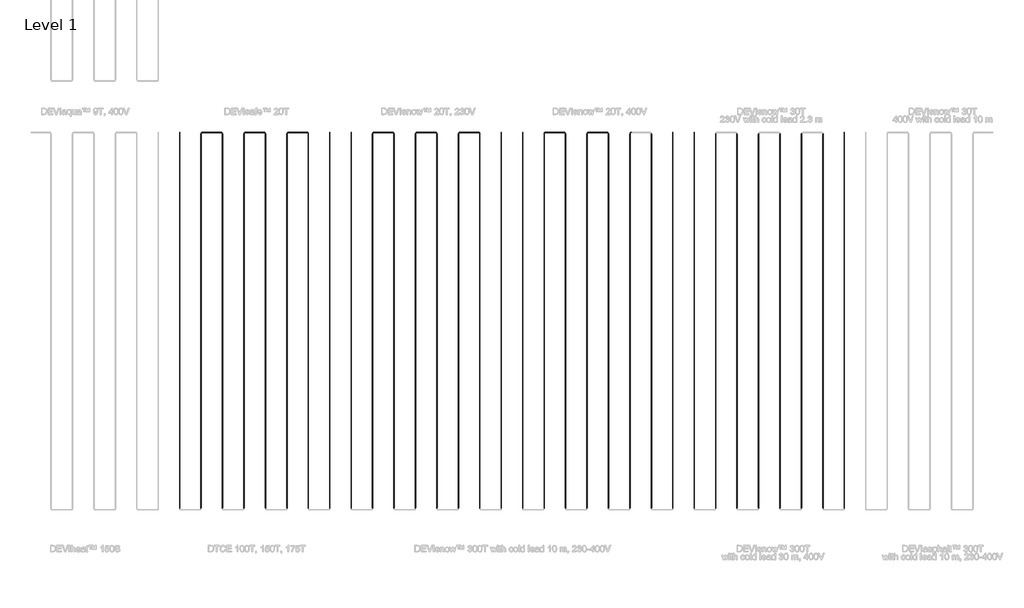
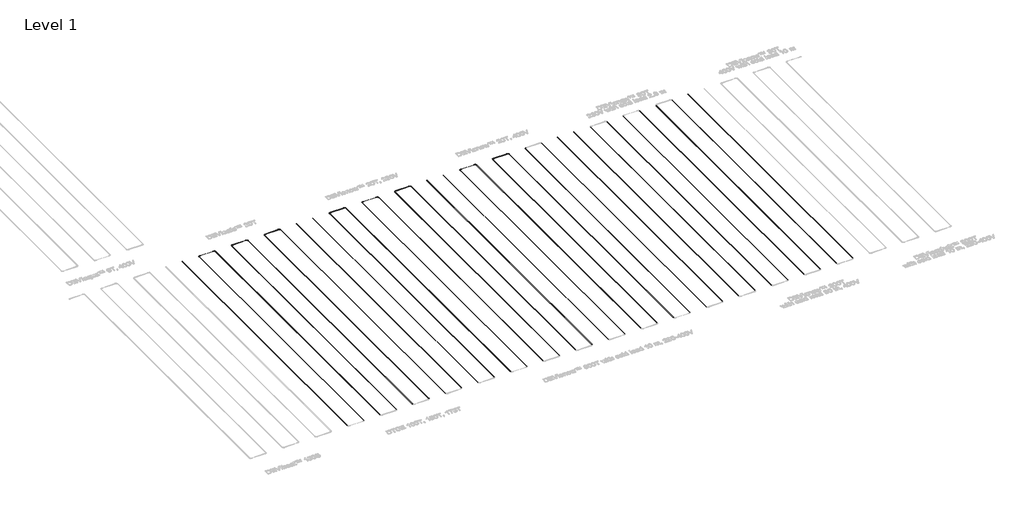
# One storey, part 5 of 26: 40 cable carrier segments, 17 cable carrier fittings.
"""IFC4 building model written with IfcOpenShell, lengths in millimetres."""

from ifc_helpers import new_model, si_unit, point, frame, frame_2d, origin, place, context, project, spatial, circle_curve, trimmed, segment, composite_curve, outline, extrude, transform, mapped, element, save
from components import cable_carrier_fitting_e4b1aeb6

model = new_model("IFC4")

# Units and contexts
model_context = context("Model", 3, world=origin())
ifc_project = project(units=[si_unit("LENGTHUNIT", "METRE", prefix="MILLI")], contexts=[model_context])

# Site, building, storey
site = spatial("IfcSite", under=ifc_project)
building = spatial("IfcBuilding", under=site)
storey = spatial("IfcBuildingStorey", under=building, Name="Level 1", Elevation=0.0)

# Cable carrier fittings
placement = place(None, origin())
cable_carrier_fitting_shape = cable_carrier_fitting_e4b1aeb6(model_context)
element("IfcCableCarrierFitting", 1, ObjectType="Danfoss Elbow : DEVIsafe™ 20T", at=placement, inside=storey, context=model_context, shape_type="MappedRepresentation", body=[
    mapped(cable_carrier_fitting_shape, transform((912.6597555, -17938.7894079, -100.0), x_axis=(-1.0, 0.0, 0.0), y_axis=(0.0, -1.0, 0.0), z_axis=(0.0, 0.0, 1.0))),
])
element("IfcCableCarrierFitting", 2, ObjectType="Danfoss Elbow : DEVIsafe™ 20T", at=placement, inside=storey, context=model_context, shape_type="MappedRepresentation", body=[
    mapped(cable_carrier_fitting_shape, transform((1412.6597555, -17938.7894079, -100.0), x_axis=(0.0, 1.0, 0.0), y_axis=(-1.0, 0.0, 0.0), z_axis=(0.0, 0.0, 1.0))),
])
element("IfcCableCarrierFitting", 3, ObjectType="Danfoss Elbow : DEVIsafe™ 20T", at=placement, inside=storey, context=model_context, shape_type="MappedRepresentation", body=[
    mapped(cable_carrier_fitting_shape, transform((1912.6597555, -17938.7894079, -100.0), x_axis=(-1.0, 0.0, 0.0), y_axis=(0.0, -1.0, 0.0), z_axis=(0.0, 0.0, 1.0))),
])
element("IfcCableCarrierFitting", 4, ObjectType="Danfoss Elbow : DEVIsafe™ 20T", at=placement, inside=storey, context=model_context, shape_type="MappedRepresentation", body=[
    mapped(cable_carrier_fitting_shape, transform((2412.6597555, -17938.7894079, -100.0), x_axis=(0.0, 1.0, 0.0), y_axis=(-1.0, 0.0, 0.0), z_axis=(0.0, 0.0, 1.0))),
])
element("IfcCableCarrierFitting", 5, ObjectType="Danfoss Elbow : DEVIsafe™ 20T", at=placement, inside=storey, context=model_context, shape_type="MappedRepresentation", body=[
    mapped(cable_carrier_fitting_shape, transform((2912.6597555, -17938.7894079, -100.0), x_axis=(-1.0, 0.0, 0.0), y_axis=(0.0, -1.0, 0.0), z_axis=(0.0, 0.0, 1.0))),
])
element("IfcCableCarrierFitting", 6, ObjectType="Danfoss Elbow : DEVIsafe™ 20T", at=placement, inside=storey, context=model_context, shape_type="MappedRepresentation", body=[
    mapped(cable_carrier_fitting_shape, transform((3412.6597555, -17938.7894079, -100.0), x_axis=(0.0, 1.0, 0.0), y_axis=(-1.0, 0.0, 0.0), z_axis=(0.0, 0.0, 1.0))),
])
element("IfcCableCarrierFitting", 7, ObjectType="Danfoss Elbow : DEVIsnow™ 20T, 230V", at=placement, inside=storey, context=model_context, shape_type="MappedRepresentation", body=[
    mapped(cable_carrier_fitting_shape, transform((4912.6597555, -17938.7894079, -100.0), x_axis=(-1.0, 0.0, 0.0), y_axis=(0.0, -1.0, 0.0), z_axis=(0.0, 0.0, 1.0))),
])
element("IfcCableCarrierFitting", 8, ObjectType="Danfoss Elbow : DEVIsnow™ 20T, 230V", at=placement, inside=storey, context=model_context, shape_type="MappedRepresentation", body=[
    mapped(cable_carrier_fitting_shape, transform((5412.6597555, -17938.7894079, -100.0), x_axis=(0.0, 1.0, 0.0), y_axis=(-1.0, 0.0, 0.0), z_axis=(0.0, 0.0, 1.0))),
])
element("IfcCableCarrierFitting", 9, ObjectType="Danfoss Elbow : DEVIsnow™ 20T, 230V", at=placement, inside=storey, context=model_context, shape_type="MappedRepresentation", body=[
    mapped(cable_carrier_fitting_shape, transform((6412.6597555, -17938.7894079, -100.0), x_axis=(0.0, 1.0, 0.0), y_axis=(-1.0, 0.0, 0.0), z_axis=(0.0, 0.0, 1.0))),
])
element("IfcCableCarrierFitting", 10, ObjectType="Danfoss Elbow : DEVIsnow™ 20T, 230V", at=placement, inside=storey, context=model_context, shape_type="MappedRepresentation", body=[
    mapped(cable_carrier_fitting_shape, transform((6912.6597555, -17938.7894079, -100.0), x_axis=(-1.0, 0.0, 0.0), y_axis=(0.0, -1.0, 0.0), z_axis=(0.0, 0.0, 1.0))),
])
element("IfcCableCarrierFitting", 11, ObjectType="Danfoss Elbow : DEVIsnow™ 20T, 230V", at=placement, inside=storey, context=model_context, shape_type="MappedRepresentation", body=[
    mapped(cable_carrier_fitting_shape, transform((7412.6597555, -17938.7894079, -100.0), x_axis=(0.0, 1.0, 0.0), y_axis=(-1.0, 0.0, 0.0), z_axis=(0.0, 0.0, 1.0))),
])
element("IfcCableCarrierFitting", 12, ObjectType="Danfoss Elbow : DEVIsnow™ 20T, 230V", at=placement, inside=storey, context=model_context, shape_type="MappedRepresentation", body=[
    mapped(cable_carrier_fitting_shape, transform((5912.6597555, -17938.7894079, -100.0), x_axis=(-1.0, 0.0, 0.0), y_axis=(0.0, -1.0, 0.0), z_axis=(0.0, 0.0, 1.0))),
])
element("IfcCableCarrierFitting", 13, ObjectType="Danfoss Elbow : DEVIsnow™ 20T, 400V", at=placement, inside=storey, context=model_context, shape_type="MappedRepresentation", body=[
    mapped(cable_carrier_fitting_shape, transform((8912.6597555, -17938.7894079, -100.0), x_axis=(-1.0, 0.0, 0.0), y_axis=(0.0, -1.0, 0.0), z_axis=(0.0, 0.0, 1.0))),
])
element("IfcCableCarrierFitting", 14, ObjectType="Danfoss Elbow : DEVIsnow™ 20T, 400V", at=placement, inside=storey, context=model_context, shape_type="MappedRepresentation", body=[
    mapped(cable_carrier_fitting_shape, transform((9412.6597555, -17938.7894079, -100.0), x_axis=(0.0, 1.0, 0.0), y_axis=(-1.0, 0.0, 0.0), z_axis=(0.0, 0.0, 1.0))),
])
element("IfcCableCarrierFitting", 15, ObjectType="Danfoss Elbow : DEVIsnow™ 20T, 400V", at=placement, inside=storey, context=model_context, shape_type="MappedRepresentation", body=[
    mapped(cable_carrier_fitting_shape, transform((9912.6597555, -17938.7894079, -100.0), x_axis=(-1.0, 0.0, 0.0), y_axis=(0.0, -1.0, 0.0), z_axis=(0.0, 0.0, 1.0))),
])
element("IfcCableCarrierFitting", 16, ObjectType="Danfoss Elbow : DEVIsnow™ 20T, 400V", at=placement, inside=storey, context=model_context, shape_type="MappedRepresentation", body=[
    mapped(cable_carrier_fitting_shape, transform((10412.6597555, -17938.7894079, -100.0), x_axis=(0.0, 1.0, 0.0), y_axis=(-1.0, 0.0, 0.0), z_axis=(0.0, 0.0, 1.0))),
])
element("IfcCableCarrierFitting", 17, ObjectType="Danfoss Elbow : DEVIsnow™ 20T, 400V", at=placement, inside=storey, context=model_context, shape_type="MappedRepresentation", body=[
    mapped(cable_carrier_fitting_shape, transform((10912.6597555, -17938.7894079, -100.0), x_axis=(-1.0, 0.0, 0.0), y_axis=(0.0, -1.0, 0.0), z_axis=(0.0, 0.0, 1.0))),
])

# Cable carrier segments
element("IfcCableCarrierSegment", 18, ObjectType="DEVIsafe™ 20T", at=placement, inside=storey, context=model_context, shape_type="SweptSolid", body=[
    extrude(outline(composite_curve([segment(trimmed(circle_curve(frame_2d((-100.0, 412.6597555)), 3.45), [point((-100.0, 409.2097555))], [point((-103.45, 412.6597555))], False, "CARTESIAN"), True, "CONTINUOUS"), segment(trimmed(circle_curve(frame_2d((-100.0, 412.6597555)), 3.45), [point((-103.45, 412.6597555))], [point((-100.0, 416.1097555))], False, "CARTESIAN"), True, "CONTINUOUS"), segment(trimmed(circle_curve(frame_2d((-100.0, 412.6597555)), 3.45), [point((-100.0, 416.1097555))], [point((-96.55, 412.6597555))], False, "CARTESIAN"), True, "CONTINUOUS"), segment(trimmed(circle_curve(frame_2d((-100.0, 412.6597555)), 3.45), [point((-96.55, 412.6597555))], [point((-100.0, 409.2097555))], False, "CARTESIAN"), True, "CONTINUOUS")], self_intersect=False)), frame((0.0, -26703.7894079, 0.0), z_axis=(0.0, 1.0, 0.0), x_axis=(0.0, 0.0, 1.0)), (0.0, 0.0, 1.0), 8765.0),
])
element("IfcCableCarrierSegment", 19, ObjectType="DEVIsafe™ 20T", at=placement, inside=storey, context=model_context, shape_type="SweptSolid", body=[
    extrude(outline(composite_curve([segment(trimmed(circle_curve(frame_2d((-100.0, 912.6597555)), 3.45), [point((-100.0, 916.1097555))], [point((-96.55, 912.6597555))], False, "CARTESIAN"), True, "CONTINUOUS"), segment(trimmed(circle_curve(frame_2d((-100.0, 912.6597555)), 3.45), [point((-96.55, 912.6597555))], [point((-100.0, 909.2097555))], False, "CARTESIAN"), True, "CONTINUOUS"), segment(trimmed(circle_curve(frame_2d((-100.0, 912.6597555)), 3.45), [point((-100.0, 909.2097555))], [point((-103.45, 912.6597555))], False, "CARTESIAN"), True, "CONTINUOUS"), segment(trimmed(circle_curve(frame_2d((-100.0, 912.6597555)), 3.45), [point((-103.45, 912.6597555))], [point((-100.0, 916.1097555))], False, "CARTESIAN"), True, "CONTINUOUS")], self_intersect=False)), frame((0.0, -26703.7894079, 0.0), z_axis=(0.0, 1.0, 0.0), x_axis=(0.0, 0.0, 1.0)), (0.0, 0.0, 1.0), 8730.0),
])
element("IfcCableCarrierSegment", 20, ObjectType="DEVIsafe™ 20T", at=placement, inside=storey, context=model_context, shape_type="SweptSolid", body=[
    extrude(outline(composite_curve([segment(trimmed(circle_curve(frame_2d((-17938.7894079, -100.0)), 3.45), [point((-17942.2394079, -100.0))], [point((-17938.7894079, -96.55))], False, "CARTESIAN"), True, "CONTINUOUS"), segment(trimmed(circle_curve(frame_2d((-17938.7894079, -100.0)), 3.45), [point((-17938.7894079, -96.55))], [point((-17935.3394079, -100.0))], False, "CARTESIAN"), True, "CONTINUOUS"), segment(trimmed(circle_curve(frame_2d((-17938.7894079, -100.0)), 3.45), [point((-17935.3394079, -100.0))], [point((-17938.7894079, -103.45))], False, "CARTESIAN"), True, "CONTINUOUS"), segment(trimmed(circle_curve(frame_2d((-17938.7894079, -100.0)), 3.45), [point((-17938.7894079, -103.45))], [point((-17942.2394079, -100.0))], False, "CARTESIAN"), True, "CONTINUOUS")], self_intersect=False)), frame((947.6597555, 0.0, 0.0), z_axis=(1.0, 0.0, 0.0), x_axis=(0.0, 1.0, 0.0)), (0.0, 0.0, 1.0), 430.0),
])
element("IfcCableCarrierSegment", 21, ObjectType="DEVIsafe™ 20T", at=placement, inside=storey, context=model_context, shape_type="SweptSolid", body=[
    extrude(outline(composite_curve([segment(trimmed(circle_curve(frame_2d((-100.0, 1412.6597555)), 3.45), [point((-100.0, 1409.2097555))], [point((-103.45, 1412.6597555))], False, "CARTESIAN"), True, "CONTINUOUS"), segment(trimmed(circle_curve(frame_2d((-100.0, 1412.6597555)), 3.45), [point((-103.45, 1412.6597555))], [point((-100.0, 1416.1097555))], False, "CARTESIAN"), True, "CONTINUOUS"), segment(trimmed(circle_curve(frame_2d((-100.0, 1412.6597555)), 3.45), [point((-100.0, 1416.1097555))], [point((-96.55, 1412.6597555))], False, "CARTESIAN"), True, "CONTINUOUS"), segment(trimmed(circle_curve(frame_2d((-100.0, 1412.6597555)), 3.45), [point((-96.55, 1412.6597555))], [point((-100.0, 1409.2097555))], False, "CARTESIAN"), True, "CONTINUOUS")], self_intersect=False)), frame((0.0, -26703.7894079, 0.0), z_axis=(0.0, 1.0, 0.0), x_axis=(0.0, 0.0, 1.0)), (0.0, 0.0, 1.0), 8730.0),
])
element("IfcCableCarrierSegment", 22, ObjectType="DEVIsafe™ 20T", at=placement, inside=storey, context=model_context, shape_type="SweptSolid", body=[
    extrude(outline(composite_curve([segment(trimmed(circle_curve(frame_2d((-100.0, 1912.6597555)), 3.45), [point((-100.0, 1916.1097555))], [point((-96.55, 1912.6597555))], False, "CARTESIAN"), True, "CONTINUOUS"), segment(trimmed(circle_curve(frame_2d((-100.0, 1912.6597555)), 3.45), [point((-96.55, 1912.6597555))], [point((-100.0, 1909.2097555))], False, "CARTESIAN"), True, "CONTINUOUS"), segment(trimmed(circle_curve(frame_2d((-100.0, 1912.6597555)), 3.45), [point((-100.0, 1909.2097555))], [point((-103.45, 1912.6597555))], False, "CARTESIAN"), True, "CONTINUOUS"), segment(trimmed(circle_curve(frame_2d((-100.0, 1912.6597555)), 3.45), [point((-103.45, 1912.6597555))], [point((-100.0, 1916.1097555))], False, "CARTESIAN"), True, "CONTINUOUS")], self_intersect=False)), frame((0.0, -26703.7894079, 0.0), z_axis=(0.0, 1.0, 0.0), x_axis=(0.0, 0.0, 1.0)), (0.0, 0.0, 1.0), 8730.0),
])
element("IfcCableCarrierSegment", 23, ObjectType="DEVIsafe™ 20T", at=placement, inside=storey, context=model_context, shape_type="SweptSolid", body=[
    extrude(outline(composite_curve([segment(trimmed(circle_curve(frame_2d((-17938.7894079, -100.0)), 3.45), [point((-17942.2394079, -100.0))], [point((-17938.7894079, -96.55))], False, "CARTESIAN"), True, "CONTINUOUS"), segment(trimmed(circle_curve(frame_2d((-17938.7894079, -100.0)), 3.45), [point((-17938.7894079, -96.55))], [point((-17935.3394079, -100.0))], False, "CARTESIAN"), True, "CONTINUOUS"), segment(trimmed(circle_curve(frame_2d((-17938.7894079, -100.0)), 3.45), [point((-17935.3394079, -100.0))], [point((-17938.7894079, -103.45))], False, "CARTESIAN"), True, "CONTINUOUS"), segment(trimmed(circle_curve(frame_2d((-17938.7894079, -100.0)), 3.45), [point((-17938.7894079, -103.45))], [point((-17942.2394079, -100.0))], False, "CARTESIAN"), True, "CONTINUOUS")], self_intersect=False)), frame((1947.6597555, 0.0, 0.0), z_axis=(1.0, 0.0, 0.0), x_axis=(0.0, 1.0, 0.0)), (0.0, 0.0, 1.0), 430.0),
])
element("IfcCableCarrierSegment", 24, ObjectType="DEVIsafe™ 20T", at=placement, inside=storey, context=model_context, shape_type="SweptSolid", body=[
    extrude(outline(composite_curve([segment(trimmed(circle_curve(frame_2d((-100.0, 2412.6597555)), 3.45), [point((-100.0, 2409.2097555))], [point((-103.45, 2412.6597555))], False, "CARTESIAN"), True, "CONTINUOUS"), segment(trimmed(circle_curve(frame_2d((-100.0, 2412.6597555)), 3.45), [point((-103.45, 2412.6597555))], [point((-100.0, 2416.1097555))], False, "CARTESIAN"), True, "CONTINUOUS"), segment(trimmed(circle_curve(frame_2d((-100.0, 2412.6597555)), 3.45), [point((-100.0, 2416.1097555))], [point((-96.55, 2412.6597555))], False, "CARTESIAN"), True, "CONTINUOUS"), segment(trimmed(circle_curve(frame_2d((-100.0, 2412.6597555)), 3.45), [point((-96.55, 2412.6597555))], [point((-100.0, 2409.2097555))], False, "CARTESIAN"), True, "CONTINUOUS")], self_intersect=False)), frame((0.0, -26703.7894079, 0.0), z_axis=(0.0, 1.0, 0.0), x_axis=(0.0, 0.0, 1.0)), (0.0, 0.0, 1.0), 8730.0),
])
element("IfcCableCarrierSegment", 25, ObjectType="DEVIsafe™ 20T", at=placement, inside=storey, context=model_context, shape_type="SweptSolid", body=[
    extrude(outline(composite_curve([segment(trimmed(circle_curve(frame_2d((-100.0, 2912.6597555)), 3.45), [point((-100.0, 2916.1097555))], [point((-96.55, 2912.6597555))], False, "CARTESIAN"), True, "CONTINUOUS"), segment(trimmed(circle_curve(frame_2d((-100.0, 2912.6597555)), 3.45), [point((-96.55, 2912.6597555))], [point((-100.0, 2909.2097555))], False, "CARTESIAN"), True, "CONTINUOUS"), segment(trimmed(circle_curve(frame_2d((-100.0, 2912.6597555)), 3.45), [point((-100.0, 2909.2097555))], [point((-103.45, 2912.6597555))], False, "CARTESIAN"), True, "CONTINUOUS"), segment(trimmed(circle_curve(frame_2d((-100.0, 2912.6597555)), 3.45), [point((-103.45, 2912.6597555))], [point((-100.0, 2916.1097555))], False, "CARTESIAN"), True, "CONTINUOUS")], self_intersect=False)), frame((0.0, -26703.7894079, 0.0), z_axis=(0.0, 1.0, 0.0), x_axis=(0.0, 0.0, 1.0)), (0.0, 0.0, 1.0), 8730.0),
])
element("IfcCableCarrierSegment", 26, ObjectType="DEVIsafe™ 20T", at=placement, inside=storey, context=model_context, shape_type="SweptSolid", body=[
    extrude(outline(composite_curve([segment(trimmed(circle_curve(frame_2d((-17938.7894079, -100.0)), 3.45), [point((-17942.2394079, -100.0))], [point((-17938.7894079, -96.55))], False, "CARTESIAN"), True, "CONTINUOUS"), segment(trimmed(circle_curve(frame_2d((-17938.7894079, -100.0)), 3.45), [point((-17938.7894079, -96.55))], [point((-17935.3394079, -100.0))], False, "CARTESIAN"), True, "CONTINUOUS"), segment(trimmed(circle_curve(frame_2d((-17938.7894079, -100.0)), 3.45), [point((-17935.3394079, -100.0))], [point((-17938.7894079, -103.45))], False, "CARTESIAN"), True, "CONTINUOUS"), segment(trimmed(circle_curve(frame_2d((-17938.7894079, -100.0)), 3.45), [point((-17938.7894079, -103.45))], [point((-17942.2394079, -100.0))], False, "CARTESIAN"), True, "CONTINUOUS")], self_intersect=False)), frame((2947.6597555, 0.0, 0.0), z_axis=(1.0, 0.0, 0.0), x_axis=(0.0, 1.0, 0.0)), (0.0, 0.0, 1.0), 430.0),
])
element("IfcCableCarrierSegment", 27, ObjectType="DEVIsafe™ 20T", at=placement, inside=storey, context=model_context, shape_type="SweptSolid", body=[
    extrude(outline(composite_curve([segment(trimmed(circle_curve(frame_2d((-100.0, 3412.6597555)), 3.45), [point((-100.0, 3409.2097555))], [point((-103.45, 3412.6597555))], False, "CARTESIAN"), True, "CONTINUOUS"), segment(trimmed(circle_curve(frame_2d((-100.0, 3412.6597555)), 3.45), [point((-103.45, 3412.6597555))], [point((-100.0, 3416.1097555))], False, "CARTESIAN"), True, "CONTINUOUS"), segment(trimmed(circle_curve(frame_2d((-100.0, 3412.6597555)), 3.45), [point((-100.0, 3416.1097555))], [point((-96.55, 3412.6597555))], False, "CARTESIAN"), True, "CONTINUOUS"), segment(trimmed(circle_curve(frame_2d((-100.0, 3412.6597555)), 3.45), [point((-96.55, 3412.6597555))], [point((-100.0, 3409.2097555))], False, "CARTESIAN"), True, "CONTINUOUS")], self_intersect=False)), frame((0.0, -26703.7894079, 0.0), z_axis=(0.0, 1.0, 0.0), x_axis=(0.0, 0.0, 1.0)), (0.0, 0.0, 1.0), 8730.0),
])
element("IfcCableCarrierSegment", 28, ObjectType="DEVIsafe™ 20T", at=placement, inside=storey, context=model_context, shape_type="SweptSolid", body=[
    extrude(outline(composite_curve([segment(trimmed(circle_curve(frame_2d((-100.0, 3912.6597555)), 3.45), [point((-100.0, 3916.1097555))], [point((-96.55, 3912.6597555))], False, "CARTESIAN"), True, "CONTINUOUS"), segment(trimmed(circle_curve(frame_2d((-100.0, 3912.6597555)), 3.45), [point((-96.55, 3912.6597555))], [point((-100.0, 3909.2097555))], False, "CARTESIAN"), True, "CONTINUOUS"), segment(trimmed(circle_curve(frame_2d((-100.0, 3912.6597555)), 3.45), [point((-100.0, 3909.2097555))], [point((-103.45, 3912.6597555))], False, "CARTESIAN"), True, "CONTINUOUS"), segment(trimmed(circle_curve(frame_2d((-100.0, 3912.6597555)), 3.45), [point((-103.45, 3912.6597555))], [point((-100.0, 3916.1097555))], False, "CARTESIAN"), True, "CONTINUOUS")], self_intersect=False)), frame((0.0, -26703.7894079, 0.0), z_axis=(0.0, 1.0, 0.0), x_axis=(0.0, 0.0, 1.0)), (0.0, 0.0, 1.0), 8765.0),
])
element("IfcCableCarrierSegment", 29, ObjectType="DEVIsnow™ 20T, 230V", at=placement, inside=storey, context=model_context, shape_type="SweptSolid", body=[
    extrude(outline(composite_curve([segment(trimmed(circle_curve(frame_2d((-100.0, 4412.6597555)), 3.45), [point((-100.0, 4409.2097555))], [point((-103.45, 4412.6597555))], False, "CARTESIAN"), True, "CONTINUOUS"), segment(trimmed(circle_curve(frame_2d((-100.0, 4412.6597555)), 3.45), [point((-103.45, 4412.6597555))], [point((-100.0, 4416.1097555))], False, "CARTESIAN"), True, "CONTINUOUS"), segment(trimmed(circle_curve(frame_2d((-100.0, 4412.6597555)), 3.45), [point((-100.0, 4416.1097555))], [point((-96.55, 4412.6597555))], False, "CARTESIAN"), True, "CONTINUOUS"), segment(trimmed(circle_curve(frame_2d((-100.0, 4412.6597555)), 3.45), [point((-96.55, 4412.6597555))], [point((-100.0, 4409.2097555))], False, "CARTESIAN"), True, "CONTINUOUS")], self_intersect=False)), frame((0.0, -26703.7894079, 0.0), z_axis=(0.0, 1.0, 0.0), x_axis=(0.0, 0.0, 1.0)), (0.0, 0.0, 1.0), 8765.0),
])
element("IfcCableCarrierSegment", 30, ObjectType="DEVIsnow™ 20T, 230V", at=placement, inside=storey, context=model_context, shape_type="SweptSolid", body=[
    extrude(outline(composite_curve([segment(trimmed(circle_curve(frame_2d((-100.0, 4912.6597555)), 3.45), [point((-100.0, 4916.1097555))], [point((-96.55, 4912.6597555))], False, "CARTESIAN"), True, "CONTINUOUS"), segment(trimmed(circle_curve(frame_2d((-100.0, 4912.6597555)), 3.45), [point((-96.55, 4912.6597555))], [point((-100.0, 4909.2097555))], False, "CARTESIAN"), True, "CONTINUOUS"), segment(trimmed(circle_curve(frame_2d((-100.0, 4912.6597555)), 3.45), [point((-100.0, 4909.2097555))], [point((-103.45, 4912.6597555))], False, "CARTESIAN"), True, "CONTINUOUS"), segment(trimmed(circle_curve(frame_2d((-100.0, 4912.6597555)), 3.45), [point((-103.45, 4912.6597555))], [point((-100.0, 4916.1097555))], False, "CARTESIAN"), True, "CONTINUOUS")], self_intersect=False)), frame((0.0, -26703.7894079, 0.0), z_axis=(0.0, 1.0, 0.0), x_axis=(0.0, 0.0, 1.0)), (0.0, 0.0, 1.0), 8730.0),
])
element("IfcCableCarrierSegment", 31, ObjectType="DEVIsnow™ 20T, 230V", at=placement, inside=storey, context=model_context, shape_type="SweptSolid", body=[
    extrude(outline(composite_curve([segment(trimmed(circle_curve(frame_2d((-17938.7894079, -100.0)), 3.45), [point((-17942.2394079, -100.0))], [point((-17938.7894079, -96.55))], False, "CARTESIAN"), True, "CONTINUOUS"), segment(trimmed(circle_curve(frame_2d((-17938.7894079, -100.0)), 3.45), [point((-17938.7894079, -96.55))], [point((-17935.3394079, -100.0))], False, "CARTESIAN"), True, "CONTINUOUS"), segment(trimmed(circle_curve(frame_2d((-17938.7894079, -100.0)), 3.45), [point((-17935.3394079, -100.0))], [point((-17938.7894079, -103.45))], False, "CARTESIAN"), True, "CONTINUOUS"), segment(trimmed(circle_curve(frame_2d((-17938.7894079, -100.0)), 3.45), [point((-17938.7894079, -103.45))], [point((-17942.2394079, -100.0))], False, "CARTESIAN"), True, "CONTINUOUS")], self_intersect=False)), frame((4947.6597555, 0.0, 0.0), z_axis=(1.0, 0.0, 0.0), x_axis=(0.0, 1.0, 0.0)), (0.0, 0.0, 1.0), 430.0),
])
element("IfcCableCarrierSegment", 32, ObjectType="DEVIsnow™ 20T, 230V", at=placement, inside=storey, context=model_context, shape_type="SweptSolid", body=[
    extrude(outline(composite_curve([segment(trimmed(circle_curve(frame_2d((-100.0, 5412.6597555)), 3.45), [point((-100.0, 5409.2097555))], [point((-103.45, 5412.6597555))], False, "CARTESIAN"), True, "CONTINUOUS"), segment(trimmed(circle_curve(frame_2d((-100.0, 5412.6597555)), 3.45), [point((-103.45, 5412.6597555))], [point((-100.0, 5416.1097555))], False, "CARTESIAN"), True, "CONTINUOUS"), segment(trimmed(circle_curve(frame_2d((-100.0, 5412.6597555)), 3.45), [point((-100.0, 5416.1097555))], [point((-96.55, 5412.6597555))], False, "CARTESIAN"), True, "CONTINUOUS"), segment(trimmed(circle_curve(frame_2d((-100.0, 5412.6597555)), 3.45), [point((-96.55, 5412.6597555))], [point((-100.0, 5409.2097555))], False, "CARTESIAN"), True, "CONTINUOUS")], self_intersect=False)), frame((0.0, -26703.7894079, 0.0), z_axis=(0.0, 1.0, 0.0), x_axis=(0.0, 0.0, 1.0)), (0.0, 0.0, 1.0), 8730.0),
])
element("IfcCableCarrierSegment", 33, ObjectType="DEVIsnow™ 20T, 230V", at=placement, inside=storey, context=model_context, shape_type="SweptSolid", body=[
    extrude(outline(composite_curve([segment(trimmed(circle_curve(frame_2d((-100.0, 5912.6597555)), 3.45), [point((-100.0, 5916.1097555))], [point((-96.55, 5912.6597555))], False, "CARTESIAN"), True, "CONTINUOUS"), segment(trimmed(circle_curve(frame_2d((-100.0, 5912.6597555)), 3.45), [point((-96.55, 5912.6597555))], [point((-100.0, 5909.2097555))], False, "CARTESIAN"), True, "CONTINUOUS"), segment(trimmed(circle_curve(frame_2d((-100.0, 5912.6597555)), 3.45), [point((-100.0, 5909.2097555))], [point((-103.45, 5912.6597555))], False, "CARTESIAN"), True, "CONTINUOUS"), segment(trimmed(circle_curve(frame_2d((-100.0, 5912.6597555)), 3.45), [point((-103.45, 5912.6597555))], [point((-100.0, 5916.1097555))], False, "CARTESIAN"), True, "CONTINUOUS")], self_intersect=False)), frame((0.0, -26703.7894079, 0.0), z_axis=(0.0, 1.0, 0.0), x_axis=(0.0, 0.0, 1.0)), (0.0, 0.0, 1.0), 8730.0),
])
element("IfcCableCarrierSegment", 34, ObjectType="DEVIsnow™ 20T, 230V", at=placement, inside=storey, context=model_context, shape_type="SweptSolid", body=[
    extrude(outline(composite_curve([segment(trimmed(circle_curve(frame_2d((-17938.7894079, -100.0)), 3.45), [point((-17942.2394079, -100.0))], [point((-17938.7894079, -96.55))], False, "CARTESIAN"), True, "CONTINUOUS"), segment(trimmed(circle_curve(frame_2d((-17938.7894079, -100.0)), 3.45), [point((-17938.7894079, -96.55))], [point((-17935.3394079, -100.0))], False, "CARTESIAN"), True, "CONTINUOUS"), segment(trimmed(circle_curve(frame_2d((-17938.7894079, -100.0)), 3.45), [point((-17935.3394079, -100.0))], [point((-17938.7894079, -103.45))], False, "CARTESIAN"), True, "CONTINUOUS"), segment(trimmed(circle_curve(frame_2d((-17938.7894079, -100.0)), 3.45), [point((-17938.7894079, -103.45))], [point((-17942.2394079, -100.0))], False, "CARTESIAN"), True, "CONTINUOUS")], self_intersect=False)), frame((5947.6597555, 0.0, 0.0), z_axis=(1.0, 0.0, 0.0), x_axis=(0.0, 1.0, 0.0)), (0.0, 0.0, 1.0), 430.0),
])
element("IfcCableCarrierSegment", 35, ObjectType="DEVIsnow™ 20T, 230V", at=placement, inside=storey, context=model_context, shape_type="SweptSolid", body=[
    extrude(outline(composite_curve([segment(trimmed(circle_curve(frame_2d((-100.0, 6412.6597555)), 3.45), [point((-100.0, 6409.2097555))], [point((-103.45, 6412.6597555))], False, "CARTESIAN"), True, "CONTINUOUS"), segment(trimmed(circle_curve(frame_2d((-100.0, 6412.6597555)), 3.45), [point((-103.45, 6412.6597555))], [point((-100.0, 6416.1097555))], False, "CARTESIAN"), True, "CONTINUOUS"), segment(trimmed(circle_curve(frame_2d((-100.0, 6412.6597555)), 3.45), [point((-100.0, 6416.1097555))], [point((-96.55, 6412.6597555))], False, "CARTESIAN"), True, "CONTINUOUS"), segment(trimmed(circle_curve(frame_2d((-100.0, 6412.6597555)), 3.45), [point((-96.55, 6412.6597555))], [point((-100.0, 6409.2097555))], False, "CARTESIAN"), True, "CONTINUOUS")], self_intersect=False)), frame((0.0, -26703.7894079, 0.0), z_axis=(0.0, 1.0, 0.0), x_axis=(0.0, 0.0, 1.0)), (0.0, 0.0, 1.0), 8730.0),
])
element("IfcCableCarrierSegment", 36, ObjectType="DEVIsnow™ 20T, 230V", at=placement, inside=storey, context=model_context, shape_type="SweptSolid", body=[
    extrude(outline(composite_curve([segment(trimmed(circle_curve(frame_2d((-100.0, 6912.6597555)), 3.45), [point((-100.0, 6916.1097555))], [point((-96.55, 6912.6597555))], False, "CARTESIAN"), True, "CONTINUOUS"), segment(trimmed(circle_curve(frame_2d((-100.0, 6912.6597555)), 3.45), [point((-96.55, 6912.6597555))], [point((-100.0, 6909.2097555))], False, "CARTESIAN"), True, "CONTINUOUS"), segment(trimmed(circle_curve(frame_2d((-100.0, 6912.6597555)), 3.45), [point((-100.0, 6909.2097555))], [point((-103.45, 6912.6597555))], False, "CARTESIAN"), True, "CONTINUOUS"), segment(trimmed(circle_curve(frame_2d((-100.0, 6912.6597555)), 3.45), [point((-103.45, 6912.6597555))], [point((-100.0, 6916.1097555))], False, "CARTESIAN"), True, "CONTINUOUS")], self_intersect=False)), frame((0.0, -26703.7894079, 0.0), z_axis=(0.0, 1.0, 0.0), x_axis=(0.0, 0.0, 1.0)), (0.0, 0.0, 1.0), 8730.0),
])
element("IfcCableCarrierSegment", 37, ObjectType="DEVIsnow™ 20T, 230V", at=placement, inside=storey, context=model_context, shape_type="SweptSolid", body=[
    extrude(outline(composite_curve([segment(trimmed(circle_curve(frame_2d((-17938.7894079, -100.0)), 3.45), [point((-17942.2394079, -100.0))], [point((-17938.7894079, -96.55))], False, "CARTESIAN"), True, "CONTINUOUS"), segment(trimmed(circle_curve(frame_2d((-17938.7894079, -100.0)), 3.45), [point((-17938.7894079, -96.55))], [point((-17935.3394079, -100.0))], False, "CARTESIAN"), True, "CONTINUOUS"), segment(trimmed(circle_curve(frame_2d((-17938.7894079, -100.0)), 3.45), [point((-17935.3394079, -100.0))], [point((-17938.7894079, -103.45))], False, "CARTESIAN"), True, "CONTINUOUS"), segment(trimmed(circle_curve(frame_2d((-17938.7894079, -100.0)), 3.45), [point((-17938.7894079, -103.45))], [point((-17942.2394079, -100.0))], False, "CARTESIAN"), True, "CONTINUOUS")], self_intersect=False)), frame((6947.6597555, 0.0, 0.0), z_axis=(1.0, 0.0, 0.0), x_axis=(0.0, 1.0, 0.0)), (0.0, 0.0, 1.0), 430.0),
])
element("IfcCableCarrierSegment", 38, ObjectType="DEVIsnow™ 20T, 230V", at=placement, inside=storey, context=model_context, shape_type="SweptSolid", body=[
    extrude(outline(composite_curve([segment(trimmed(circle_curve(frame_2d((-100.0, 7412.6597555)), 3.45), [point((-100.0, 7409.2097555))], [point((-103.45, 7412.6597555))], False, "CARTESIAN"), True, "CONTINUOUS"), segment(trimmed(circle_curve(frame_2d((-100.0, 7412.6597555)), 3.45), [point((-103.45, 7412.6597555))], [point((-100.0, 7416.1097555))], False, "CARTESIAN"), True, "CONTINUOUS"), segment(trimmed(circle_curve(frame_2d((-100.0, 7412.6597555)), 3.45), [point((-100.0, 7416.1097555))], [point((-96.55, 7412.6597555))], False, "CARTESIAN"), True, "CONTINUOUS"), segment(trimmed(circle_curve(frame_2d((-100.0, 7412.6597555)), 3.45), [point((-96.55, 7412.6597555))], [point((-100.0, 7409.2097555))], False, "CARTESIAN"), True, "CONTINUOUS")], self_intersect=False)), frame((0.0, -26703.7894079, 0.0), z_axis=(0.0, 1.0, 0.0), x_axis=(0.0, 0.0, 1.0)), (0.0, 0.0, 1.0), 8730.0),
])
element("IfcCableCarrierSegment", 39, ObjectType="DEVIsnow™ 20T, 230V", at=placement, inside=storey, context=model_context, shape_type="SweptSolid", body=[
    extrude(outline(composite_curve([segment(trimmed(circle_curve(frame_2d((-100.0, 7912.6597555)), 3.45), [point((-100.0, 7916.1097555))], [point((-96.55, 7912.6597555))], False, "CARTESIAN"), True, "CONTINUOUS"), segment(trimmed(circle_curve(frame_2d((-100.0, 7912.6597555)), 3.45), [point((-96.55, 7912.6597555))], [point((-100.0, 7909.2097555))], False, "CARTESIAN"), True, "CONTINUOUS"), segment(trimmed(circle_curve(frame_2d((-100.0, 7912.6597555)), 3.45), [point((-100.0, 7909.2097555))], [point((-103.45, 7912.6597555))], False, "CARTESIAN"), True, "CONTINUOUS"), segment(trimmed(circle_curve(frame_2d((-100.0, 7912.6597555)), 3.45), [point((-103.45, 7912.6597555))], [point((-100.0, 7916.1097555))], False, "CARTESIAN"), True, "CONTINUOUS")], self_intersect=False)), frame((0.0, -26703.7894079, 0.0), z_axis=(0.0, 1.0, 0.0), x_axis=(0.0, 0.0, 1.0)), (0.0, 0.0, 1.0), 8765.0),
])
element("IfcCableCarrierSegment", 40, ObjectType="DEVIsnow™ 20T, 400V", at=placement, inside=storey, context=model_context, shape_type="SweptSolid", body=[
    extrude(outline(composite_curve([segment(trimmed(circle_curve(frame_2d((-100.0, 8412.6597555)), 3.45), [point((-100.0, 8409.2097555))], [point((-103.45, 8412.6597555))], False, "CARTESIAN"), True, "CONTINUOUS"), segment(trimmed(circle_curve(frame_2d((-100.0, 8412.6597555)), 3.45), [point((-103.45, 8412.6597555))], [point((-100.0, 8416.1097555))], False, "CARTESIAN"), True, "CONTINUOUS"), segment(trimmed(circle_curve(frame_2d((-100.0, 8412.6597555)), 3.45), [point((-100.0, 8416.1097555))], [point((-96.55, 8412.6597555))], False, "CARTESIAN"), True, "CONTINUOUS"), segment(trimmed(circle_curve(frame_2d((-100.0, 8412.6597555)), 3.45), [point((-96.55, 8412.6597555))], [point((-100.0, 8409.2097555))], False, "CARTESIAN"), True, "CONTINUOUS")], self_intersect=False)), frame((0.0, -26703.7894079, 0.0), z_axis=(0.0, 1.0, 0.0), x_axis=(0.0, 0.0, 1.0)), (0.0, 0.0, 1.0), 8765.0),
])
element("IfcCableCarrierSegment", 41, ObjectType="DEVIsnow™ 20T, 400V", at=placement, inside=storey, context=model_context, shape_type="SweptSolid", body=[
    extrude(outline(composite_curve([segment(trimmed(circle_curve(frame_2d((-100.0, 8912.6597555)), 3.45), [point((-100.0, 8916.1097555))], [point((-96.55, 8912.6597555))], False, "CARTESIAN"), True, "CONTINUOUS"), segment(trimmed(circle_curve(frame_2d((-100.0, 8912.6597555)), 3.45), [point((-96.55, 8912.6597555))], [point((-100.0, 8909.2097555))], False, "CARTESIAN"), True, "CONTINUOUS"), segment(trimmed(circle_curve(frame_2d((-100.0, 8912.6597555)), 3.45), [point((-100.0, 8909.2097555))], [point((-103.45, 8912.6597555))], False, "CARTESIAN"), True, "CONTINUOUS"), segment(trimmed(circle_curve(frame_2d((-100.0, 8912.6597555)), 3.45), [point((-103.45, 8912.6597555))], [point((-100.0, 8916.1097555))], False, "CARTESIAN"), True, "CONTINUOUS")], self_intersect=False)), frame((0.0, -26703.7894079, 0.0), z_axis=(0.0, 1.0, 0.0), x_axis=(0.0, 0.0, 1.0)), (0.0, 0.0, 1.0), 8730.0),
])
element("IfcCableCarrierSegment", 42, ObjectType="DEVIsnow™ 20T, 400V", at=placement, inside=storey, context=model_context, shape_type="SweptSolid", body=[
    extrude(outline(composite_curve([segment(trimmed(circle_curve(frame_2d((-17938.7894079, -100.0)), 3.45), [point((-17942.2394079, -100.0))], [point((-17938.7894079, -96.55))], False, "CARTESIAN"), True, "CONTINUOUS"), segment(trimmed(circle_curve(frame_2d((-17938.7894079, -100.0)), 3.45), [point((-17938.7894079, -96.55))], [point((-17935.3394079, -100.0))], False, "CARTESIAN"), True, "CONTINUOUS"), segment(trimmed(circle_curve(frame_2d((-17938.7894079, -100.0)), 3.45), [point((-17935.3394079, -100.0))], [point((-17938.7894079, -103.45))], False, "CARTESIAN"), True, "CONTINUOUS"), segment(trimmed(circle_curve(frame_2d((-17938.7894079, -100.0)), 3.45), [point((-17938.7894079, -103.45))], [point((-17942.2394079, -100.0))], False, "CARTESIAN"), True, "CONTINUOUS")], self_intersect=False)), frame((8947.6597555, 0.0, 0.0), z_axis=(1.0, 0.0, 0.0), x_axis=(0.0, 1.0, 0.0)), (0.0, 0.0, 1.0), 430.0),
])
element("IfcCableCarrierSegment", 43, ObjectType="DEVIsnow™ 20T, 400V", at=placement, inside=storey, context=model_context, shape_type="SweptSolid", body=[
    extrude(outline(composite_curve([segment(trimmed(circle_curve(frame_2d((-100.0, 9412.6597555)), 3.45), [point((-100.0, 9409.2097555))], [point((-103.45, 9412.6597555))], False, "CARTESIAN"), True, "CONTINUOUS"), segment(trimmed(circle_curve(frame_2d((-100.0, 9412.6597555)), 3.45), [point((-103.45, 9412.6597555))], [point((-100.0, 9416.1097555))], False, "CARTESIAN"), True, "CONTINUOUS"), segment(trimmed(circle_curve(frame_2d((-100.0, 9412.6597555)), 3.45), [point((-100.0, 9416.1097555))], [point((-96.55, 9412.6597555))], False, "CARTESIAN"), True, "CONTINUOUS"), segment(trimmed(circle_curve(frame_2d((-100.0, 9412.6597555)), 3.45), [point((-96.55, 9412.6597555))], [point((-100.0, 9409.2097555))], False, "CARTESIAN"), True, "CONTINUOUS")], self_intersect=False)), frame((0.0, -26703.7894079, 0.0), z_axis=(0.0, 1.0, 0.0), x_axis=(0.0, 0.0, 1.0)), (0.0, 0.0, 1.0), 8730.0),
])
element("IfcCableCarrierSegment", 44, ObjectType="DEVIsnow™ 20T, 400V", at=placement, inside=storey, context=model_context, shape_type="SweptSolid", body=[
    extrude(outline(composite_curve([segment(trimmed(circle_curve(frame_2d((-100.0, 9912.6597555)), 3.45), [point((-100.0, 9916.1097555))], [point((-96.55, 9912.6597555))], False, "CARTESIAN"), True, "CONTINUOUS"), segment(trimmed(circle_curve(frame_2d((-100.0, 9912.6597555)), 3.45), [point((-96.55, 9912.6597555))], [point((-100.0, 9909.2097555))], False, "CARTESIAN"), True, "CONTINUOUS"), segment(trimmed(circle_curve(frame_2d((-100.0, 9912.6597555)), 3.45), [point((-100.0, 9909.2097555))], [point((-103.45, 9912.6597555))], False, "CARTESIAN"), True, "CONTINUOUS"), segment(trimmed(circle_curve(frame_2d((-100.0, 9912.6597555)), 3.45), [point((-103.45, 9912.6597555))], [point((-100.0, 9916.1097555))], False, "CARTESIAN"), True, "CONTINUOUS")], self_intersect=False)), frame((0.0, -26703.7894079, 0.0), z_axis=(0.0, 1.0, 0.0), x_axis=(0.0, 0.0, 1.0)), (0.0, 0.0, 1.0), 8730.0),
])
element("IfcCableCarrierSegment", 45, ObjectType="DEVIsnow™ 20T, 400V", at=placement, inside=storey, context=model_context, shape_type="SweptSolid", body=[
    extrude(outline(composite_curve([segment(trimmed(circle_curve(frame_2d((-17938.7894079, -100.0)), 3.45), [point((-17942.2394079, -100.0))], [point((-17938.7894079, -96.55))], False, "CARTESIAN"), True, "CONTINUOUS"), segment(trimmed(circle_curve(frame_2d((-17938.7894079, -100.0)), 3.45), [point((-17938.7894079, -96.55))], [point((-17935.3394079, -100.0))], False, "CARTESIAN"), True, "CONTINUOUS"), segment(trimmed(circle_curve(frame_2d((-17938.7894079, -100.0)), 3.45), [point((-17935.3394079, -100.0))], [point((-17938.7894079, -103.45))], False, "CARTESIAN"), True, "CONTINUOUS"), segment(trimmed(circle_curve(frame_2d((-17938.7894079, -100.0)), 3.45), [point((-17938.7894079, -103.45))], [point((-17942.2394079, -100.0))], False, "CARTESIAN"), True, "CONTINUOUS")], self_intersect=False)), frame((9947.6597555, 0.0, 0.0), z_axis=(1.0, 0.0, 0.0), x_axis=(0.0, 1.0, 0.0)), (0.0, 0.0, 1.0), 430.0),
])
element("IfcCableCarrierSegment", 46, ObjectType="DEVIsnow™ 20T, 400V", at=placement, inside=storey, context=model_context, shape_type="SweptSolid", body=[
    extrude(outline(composite_curve([segment(trimmed(circle_curve(frame_2d((-100.0, 10412.6597555)), 3.45), [point((-100.0, 10409.2097555))], [point((-103.45, 10412.6597555))], False, "CARTESIAN"), True, "CONTINUOUS"), segment(trimmed(circle_curve(frame_2d((-100.0, 10412.6597555)), 3.45), [point((-103.45, 10412.6597555))], [point((-100.0, 10416.1097555))], False, "CARTESIAN"), True, "CONTINUOUS"), segment(trimmed(circle_curve(frame_2d((-100.0, 10412.6597555)), 3.45), [point((-100.0, 10416.1097555))], [point((-96.55, 10412.6597555))], False, "CARTESIAN"), True, "CONTINUOUS"), segment(trimmed(circle_curve(frame_2d((-100.0, 10412.6597555)), 3.45), [point((-96.55, 10412.6597555))], [point((-100.0, 10409.2097555))], False, "CARTESIAN"), True, "CONTINUOUS")], self_intersect=False)), frame((0.0, -26703.7894079, 0.0), z_axis=(0.0, 1.0, 0.0), x_axis=(0.0, 0.0, 1.0)), (0.0, 0.0, 1.0), 8730.0),
])
element("IfcCableCarrierSegment", 47, ObjectType="DEVIsnow™ 20T, 400V", at=placement, inside=storey, context=model_context, shape_type="SweptSolid", body=[
    extrude(outline(composite_curve([segment(trimmed(circle_curve(frame_2d((-100.0, 10912.6597555)), 3.45), [point((-100.0, 10916.1097555))], [point((-96.55, 10912.6597555))], False, "CARTESIAN"), True, "CONTINUOUS"), segment(trimmed(circle_curve(frame_2d((-100.0, 10912.6597555)), 3.45), [point((-96.55, 10912.6597555))], [point((-100.0, 10909.2097555))], False, "CARTESIAN"), True, "CONTINUOUS"), segment(trimmed(circle_curve(frame_2d((-100.0, 10912.6597555)), 3.45), [point((-100.0, 10909.2097555))], [point((-103.45, 10912.6597555))], False, "CARTESIAN"), True, "CONTINUOUS"), segment(trimmed(circle_curve(frame_2d((-100.0, 10912.6597555)), 3.45), [point((-103.45, 10912.6597555))], [point((-100.0, 10916.1097555))], False, "CARTESIAN"), True, "CONTINUOUS")], self_intersect=False)), frame((0.0, -26703.7894079, 0.0), z_axis=(0.0, 1.0, 0.0), x_axis=(0.0, 0.0, 1.0)), (0.0, 0.0, 1.0), 8730.0),
])
element("IfcCableCarrierSegment", 48, ObjectType="DEVIsnow™ 20T, 400V", at=placement, inside=storey, context=model_context, shape_type="SweptSolid", body=[
    extrude(outline(composite_curve([segment(trimmed(circle_curve(frame_2d((-100.0, 11412.6597555)), 3.45), [point((-100.0, 11409.2097555))], [point((-103.45, 11412.6597555))], False, "CARTESIAN"), True, "CONTINUOUS"), segment(trimmed(circle_curve(frame_2d((-100.0, 11412.6597555)), 3.45), [point((-103.45, 11412.6597555))], [point((-100.0, 11416.1097555))], False, "CARTESIAN"), True, "CONTINUOUS"), segment(trimmed(circle_curve(frame_2d((-100.0, 11412.6597555)), 3.45), [point((-100.0, 11416.1097555))], [point((-96.55, 11412.6597555))], False, "CARTESIAN"), True, "CONTINUOUS"), segment(trimmed(circle_curve(frame_2d((-100.0, 11412.6597555)), 3.45), [point((-96.55, 11412.6597555))], [point((-100.0, 11409.2097555))], False, "CARTESIAN"), True, "CONTINUOUS")], self_intersect=False)), frame((0.0, -26703.7894079, 0.0), z_axis=(0.0, 1.0, 0.0), x_axis=(0.0, 0.0, 1.0)), (0.0, 0.0, 1.0), 8730.0),
])
element("IfcCableCarrierSegment", 49, ObjectType="DEVIsnow™ 20T, 400V", at=placement, inside=storey, context=model_context, shape_type="SweptSolid", body=[
    extrude(outline(composite_curve([segment(trimmed(circle_curve(frame_2d((-100.0, 11912.6597555)), 3.45), [point((-100.0, 11916.1097555))], [point((-96.55, 11912.6597555))], False, "CARTESIAN"), True, "CONTINUOUS"), segment(trimmed(circle_curve(frame_2d((-100.0, 11912.6597555)), 3.45), [point((-96.55, 11912.6597555))], [point((-100.0, 11909.2097555))], False, "CARTESIAN"), True, "CONTINUOUS"), segment(trimmed(circle_curve(frame_2d((-100.0, 11912.6597555)), 3.45), [point((-100.0, 11909.2097555))], [point((-103.45, 11912.6597555))], False, "CARTESIAN"), True, "CONTINUOUS"), segment(trimmed(circle_curve(frame_2d((-100.0, 11912.6597555)), 3.45), [point((-103.45, 11912.6597555))], [point((-100.0, 11916.1097555))], False, "CARTESIAN"), True, "CONTINUOUS")], self_intersect=False)), frame((0.0, -26703.7894079, 0.0), z_axis=(0.0, 1.0, 0.0), x_axis=(0.0, 0.0, 1.0)), (0.0, 0.0, 1.0), 8765.0),
])
element("IfcCableCarrierSegment", 50, ObjectType="DEVIsnow™ 30T, 230V with cold lead 2.3 m", at=placement, inside=storey, context=model_context, shape_type="SweptSolid", body=[
    extrude(outline(composite_curve([segment(trimmed(circle_curve(frame_2d((-100.0, 12412.6597555)), 3.45), [point((-100.0, 12409.2097555))], [point((-103.45, 12412.6597555))], False, "CARTESIAN"), True, "CONTINUOUS"), segment(trimmed(circle_curve(frame_2d((-100.0, 12412.6597555)), 3.45), [point((-103.45, 12412.6597555))], [point((-100.0, 12416.1097555))], False, "CARTESIAN"), True, "CONTINUOUS"), segment(trimmed(circle_curve(frame_2d((-100.0, 12412.6597555)), 3.45), [point((-100.0, 12416.1097555))], [point((-96.55, 12412.6597555))], False, "CARTESIAN"), True, "CONTINUOUS"), segment(trimmed(circle_curve(frame_2d((-100.0, 12412.6597555)), 3.45), [point((-96.55, 12412.6597555))], [point((-100.0, 12409.2097555))], False, "CARTESIAN"), True, "CONTINUOUS")], self_intersect=False)), frame((0.0, -26703.7894079, 0.0), z_axis=(0.0, 1.0, 0.0), x_axis=(0.0, 0.0, 1.0)), (0.0, 0.0, 1.0), 8765.0),
])
element("IfcCableCarrierSegment", 51, ObjectType="DEVIsnow™ 30T, 230V with cold lead 2.3 m", at=placement, inside=storey, context=model_context, shape_type="SweptSolid", body=[
    extrude(outline(composite_curve([segment(trimmed(circle_curve(frame_2d((-100.0, 12912.6597555)), 3.45), [point((-100.0, 12916.1097555))], [point((-96.55, 12912.6597555))], False, "CARTESIAN"), True, "CONTINUOUS"), segment(trimmed(circle_curve(frame_2d((-100.0, 12912.6597555)), 3.45), [point((-96.55, 12912.6597555))], [point((-100.0, 12909.2097555))], False, "CARTESIAN"), True, "CONTINUOUS"), segment(trimmed(circle_curve(frame_2d((-100.0, 12912.6597555)), 3.45), [point((-100.0, 12909.2097555))], [point((-103.45, 12912.6597555))], False, "CARTESIAN"), True, "CONTINUOUS"), segment(trimmed(circle_curve(frame_2d((-100.0, 12912.6597555)), 3.45), [point((-103.45, 12912.6597555))], [point((-100.0, 12916.1097555))], False, "CARTESIAN"), True, "CONTINUOUS")], self_intersect=False)), frame((0.0, -26703.7894079, 0.0), z_axis=(0.0, 1.0, 0.0), x_axis=(0.0, 0.0, 1.0)), (0.0, 0.0, 1.0), 8730.0),
])
element("IfcCableCarrierSegment", 52, ObjectType="DEVIsnow™ 30T, 230V with cold lead 2.3 m", at=placement, inside=storey, context=model_context, shape_type="SweptSolid", body=[
    extrude(outline(composite_curve([segment(trimmed(circle_curve(frame_2d((-100.0, 13412.6597555)), 3.45), [point((-100.0, 13409.2097555))], [point((-103.45, 13412.6597555))], False, "CARTESIAN"), True, "CONTINUOUS"), segment(trimmed(circle_curve(frame_2d((-100.0, 13412.6597555)), 3.45), [point((-103.45, 13412.6597555))], [point((-100.0, 13416.1097555))], False, "CARTESIAN"), True, "CONTINUOUS"), segment(trimmed(circle_curve(frame_2d((-100.0, 13412.6597555)), 3.45), [point((-100.0, 13416.1097555))], [point((-96.55, 13412.6597555))], False, "CARTESIAN"), True, "CONTINUOUS"), segment(trimmed(circle_curve(frame_2d((-100.0, 13412.6597555)), 3.45), [point((-96.55, 13412.6597555))], [point((-100.0, 13409.2097555))], False, "CARTESIAN"), True, "CONTINUOUS")], self_intersect=False)), frame((0.0, -26703.7894079, 0.0), z_axis=(0.0, 1.0, 0.0), x_axis=(0.0, 0.0, 1.0)), (0.0, 0.0, 1.0), 8730.0),
])
element("IfcCableCarrierSegment", 53, ObjectType="DEVIsnow™ 30T, 230V with cold lead 2.3 m", at=placement, inside=storey, context=model_context, shape_type="SweptSolid", body=[
    extrude(outline(composite_curve([segment(trimmed(circle_curve(frame_2d((-100.0, 13912.6597555)), 3.45), [point((-100.0, 13916.1097555))], [point((-96.55, 13912.6597555))], False, "CARTESIAN"), True, "CONTINUOUS"), segment(trimmed(circle_curve(frame_2d((-100.0, 13912.6597555)), 3.45), [point((-96.55, 13912.6597555))], [point((-100.0, 13909.2097555))], False, "CARTESIAN"), True, "CONTINUOUS"), segment(trimmed(circle_curve(frame_2d((-100.0, 13912.6597555)), 3.45), [point((-100.0, 13909.2097555))], [point((-103.45, 13912.6597555))], False, "CARTESIAN"), True, "CONTINUOUS"), segment(trimmed(circle_curve(frame_2d((-100.0, 13912.6597555)), 3.45), [point((-103.45, 13912.6597555))], [point((-100.0, 13916.1097555))], False, "CARTESIAN"), True, "CONTINUOUS")], self_intersect=False)), frame((0.0, -26703.7894079, 0.0), z_axis=(0.0, 1.0, 0.0), x_axis=(0.0, 0.0, 1.0)), (0.0, 0.0, 1.0), 8730.0),
])
element("IfcCableCarrierSegment", 54, ObjectType="DEVIsnow™ 30T, 230V with cold lead 2.3 m", at=placement, inside=storey, context=model_context, shape_type="SweptSolid", body=[
    extrude(outline(composite_curve([segment(trimmed(circle_curve(frame_2d((-100.0, 14412.6597555)), 3.45), [point((-100.0, 14409.2097555))], [point((-103.45, 14412.6597555))], False, "CARTESIAN"), True, "CONTINUOUS"), segment(trimmed(circle_curve(frame_2d((-100.0, 14412.6597555)), 3.45), [point((-103.45, 14412.6597555))], [point((-100.0, 14416.1097555))], False, "CARTESIAN"), True, "CONTINUOUS"), segment(trimmed(circle_curve(frame_2d((-100.0, 14412.6597555)), 3.45), [point((-100.0, 14416.1097555))], [point((-96.55, 14412.6597555))], False, "CARTESIAN"), True, "CONTINUOUS"), segment(trimmed(circle_curve(frame_2d((-100.0, 14412.6597555)), 3.45), [point((-96.55, 14412.6597555))], [point((-100.0, 14409.2097555))], False, "CARTESIAN"), True, "CONTINUOUS")], self_intersect=False)), frame((0.0, -26703.7894079, 0.0), z_axis=(0.0, 1.0, 0.0), x_axis=(0.0, 0.0, 1.0)), (0.0, 0.0, 1.0), 8730.0),
])
element("IfcCableCarrierSegment", 55, ObjectType="DEVIsnow™ 30T, 230V with cold lead 2.3 m", at=placement, inside=storey, context=model_context, shape_type="SweptSolid", body=[
    extrude(outline(composite_curve([segment(trimmed(circle_curve(frame_2d((-100.0, 14912.6597555)), 3.45), [point((-100.0, 14916.1097555))], [point((-96.55, 14912.6597555))], False, "CARTESIAN"), True, "CONTINUOUS"), segment(trimmed(circle_curve(frame_2d((-100.0, 14912.6597555)), 3.45), [point((-96.55, 14912.6597555))], [point((-100.0, 14909.2097555))], False, "CARTESIAN"), True, "CONTINUOUS"), segment(trimmed(circle_curve(frame_2d((-100.0, 14912.6597555)), 3.45), [point((-100.0, 14909.2097555))], [point((-103.45, 14912.6597555))], False, "CARTESIAN"), True, "CONTINUOUS"), segment(trimmed(circle_curve(frame_2d((-100.0, 14912.6597555)), 3.45), [point((-103.45, 14912.6597555))], [point((-100.0, 14916.1097555))], False, "CARTESIAN"), True, "CONTINUOUS")], self_intersect=False)), frame((0.0, -26703.7894079, 0.0), z_axis=(0.0, 1.0, 0.0), x_axis=(0.0, 0.0, 1.0)), (0.0, 0.0, 1.0), 8730.0),
])
element("IfcCableCarrierSegment", 56, ObjectType="DEVIsnow™ 30T, 230V with cold lead 2.3 m", at=placement, inside=storey, context=model_context, shape_type="SweptSolid", body=[
    extrude(outline(composite_curve([segment(trimmed(circle_curve(frame_2d((-100.0, 15412.6597555)), 3.45), [point((-100.0, 15409.2097555))], [point((-103.45, 15412.6597555))], False, "CARTESIAN"), True, "CONTINUOUS"), segment(trimmed(circle_curve(frame_2d((-100.0, 15412.6597555)), 3.45), [point((-103.45, 15412.6597555))], [point((-100.0, 15416.1097555))], False, "CARTESIAN"), True, "CONTINUOUS"), segment(trimmed(circle_curve(frame_2d((-100.0, 15412.6597555)), 3.45), [point((-100.0, 15416.1097555))], [point((-96.55, 15412.6597555))], False, "CARTESIAN"), True, "CONTINUOUS"), segment(trimmed(circle_curve(frame_2d((-100.0, 15412.6597555)), 3.45), [point((-96.55, 15412.6597555))], [point((-100.0, 15409.2097555))], False, "CARTESIAN"), True, "CONTINUOUS")], self_intersect=False)), frame((0.0, -26703.7894079, 0.0), z_axis=(0.0, 1.0, 0.0), x_axis=(0.0, 0.0, 1.0)), (0.0, 0.0, 1.0), 8730.0),
])
element("IfcCableCarrierSegment", 57, ObjectType="DEVIsnow™ 30T, 230V with cold lead 2.3 m", at=placement, inside=storey, context=model_context, shape_type="SweptSolid", body=[
    extrude(outline(composite_curve([segment(trimmed(circle_curve(frame_2d((-100.0, 15912.6597555)), 3.45), [point((-100.0, 15916.1097555))], [point((-96.55, 15912.6597555))], False, "CARTESIAN"), True, "CONTINUOUS"), segment(trimmed(circle_curve(frame_2d((-100.0, 15912.6597555)), 3.45), [point((-96.55, 15912.6597555))], [point((-100.0, 15909.2097555))], False, "CARTESIAN"), True, "CONTINUOUS"), segment(trimmed(circle_curve(frame_2d((-100.0, 15912.6597555)), 3.45), [point((-100.0, 15909.2097555))], [point((-103.45, 15912.6597555))], False, "CARTESIAN"), True, "CONTINUOUS"), segment(trimmed(circle_curve(frame_2d((-100.0, 15912.6597555)), 3.45), [point((-103.45, 15912.6597555))], [point((-100.0, 15916.1097555))], False, "CARTESIAN"), True, "CONTINUOUS")], self_intersect=False)), frame((0.0, -26703.7894079, 0.0), z_axis=(0.0, 1.0, 0.0), x_axis=(0.0, 0.0, 1.0)), (0.0, 0.0, 1.0), 8765.0),
])

save(model, "model.ifc")
